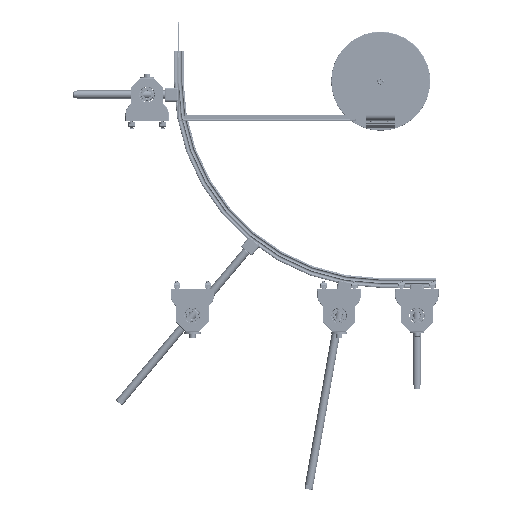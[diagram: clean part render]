
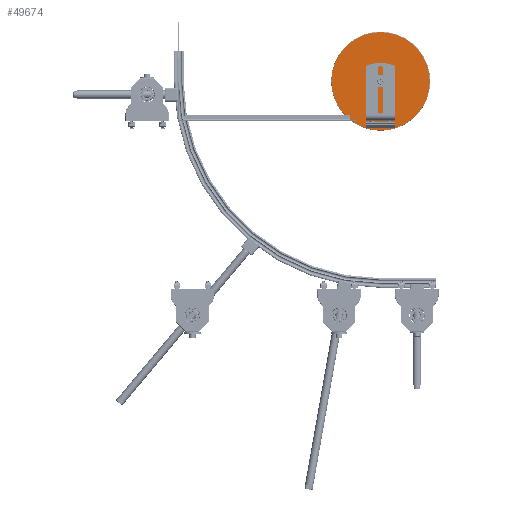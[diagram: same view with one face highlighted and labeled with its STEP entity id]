
A CAD part, front view. The second image highlights one B-rep face of the part: STEP entity #49674.
In plain terms, the highlighted planar face has unit normal (0, -1, 0) as drawn and (0, 1, 0) by its records, which use the part's own axes.
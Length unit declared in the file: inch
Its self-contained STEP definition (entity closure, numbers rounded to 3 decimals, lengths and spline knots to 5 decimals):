
#206 = CARTESIAN_POINT ( 'NONE',  ( 0., 0.405, -2.97 ) ) ;
#671 = CIRCLE ( 'NONE', #23002, 0.2525 ) ;
#678 = DIRECTION ( 'NONE',  ( 0., 0., 1. ) ) ;
#1228 = CARTESIAN_POINT ( 'NONE',  ( 0., 0.405, 0. ) ) ;
#2981 = CARTESIAN_POINT ( 'NONE',  ( 0., 0.405, -0.2525 ) ) ;
#5454 = DIRECTION ( 'NONE',  ( 0., 1., 0. ) ) ;
#6677 = EDGE_LOOP ( 'NONE', ( #39799, #21168 ) ) ;
#7563 = EDGE_CURVE ( 'NONE', #46063, #37164, #24313, .T. ) ;
#8547 = CARTESIAN_POINT ( 'NONE',  ( 0., 0.405, 0. ) ) ;
#9848 = FACE_OUTER_BOUND ( 'NONE', #29071, .T. ) ;
#10259 = DIRECTION ( 'NONE',  ( 0., 1., 0. ) ) ;
#13700 = CARTESIAN_POINT ( 'NONE',  ( 0., 0.405, 0. ) ) ;
#13982 = AXIS2_PLACEMENT_3D ( 'NONE', #1228, #18946, #44981 ) ;
#14525 = ORIENTED_EDGE ( 'NONE', *, *, #34049, .T. ) ;
#16161 = ORIENTED_EDGE ( 'NONE', *, *, #45258, .T. ) ;
#17126 = DIRECTION ( 'NONE',  ( 0., 0., 1. ) ) ;
#18946 = DIRECTION ( 'NONE',  ( 0., 1., 0. ) ) ;
#20265 = CARTESIAN_POINT ( 'NONE',  ( 0., 0.405, 2.97 ) ) ;
#20553 = CIRCLE ( 'NONE', #13982, 2.97 ) ;
#21168 = ORIENTED_EDGE ( 'NONE', *, *, #43334, .F. ) ;
#22775 = DIRECTION ( 'NONE',  ( 0., 0., 1. ) ) ;
#23002 = AXIS2_PLACEMENT_3D ( 'NONE', #32946, #23917, #50729 ) ;
#23917 = DIRECTION ( 'NONE',  ( 0., 1., 0. ) ) ;
#24313 = CIRCLE ( 'NONE', #35598, 0.2525 ) ;
#24319 = FACE_BOUND ( 'NONE', #6677, .T. ) ;
#25614 = CIRCLE ( 'NONE', #28061, 2.97 ) ;
#28061 = AXIS2_PLACEMENT_3D ( 'NONE', #43378, #39734, #17126 ) ;
#28348 = VERTEX_POINT ( 'NONE', #20265 ) ;
#29071 = EDGE_LOOP ( 'NONE', ( #14525, #16161 ) ) ;
#32946 = CARTESIAN_POINT ( 'NONE',  ( 0., 0.405, 0. ) ) ;
#34049 = EDGE_CURVE ( 'NONE', #28348, #54932, #25614, .T. ) ;
#35048 = CARTESIAN_POINT ( 'NONE',  ( 0., 0.405, 0.2525 ) ) ;
#35598 = AXIS2_PLACEMENT_3D ( 'NONE', #8547, #10259, #22775 ) ;
#37164 = VERTEX_POINT ( 'NONE', #2981 ) ;
#39734 = DIRECTION ( 'NONE',  ( 0., 1., 0. ) ) ;
#39799 = ORIENTED_EDGE ( 'NONE', *, *, #7563, .F. ) ;
#43334 = EDGE_CURVE ( 'NONE', #37164, #46063, #671, .T. ) ;
#43378 = CARTESIAN_POINT ( 'NONE',  ( 0., 0.405, 0. ) ) ;
#44981 = DIRECTION ( 'NONE',  ( 0., 0., 1. ) ) ;
#45011 = AXIS2_PLACEMENT_3D ( 'NONE', #13700, #5454, #678 ) ;
#45258 = EDGE_CURVE ( 'NONE', #54932, #28348, #20553, .T. ) ;
#46063 = VERTEX_POINT ( 'NONE', #35048 ) ;
#48069 = PLANE ( 'NONE',  #45011 ) ;
#49674 = ADVANCED_FACE ( 'NONE', ( #9848, #24319 ), #48069, .T. ) ;
#50729 = DIRECTION ( 'NONE',  ( 0., 0., 1. ) ) ;
#54932 = VERTEX_POINT ( 'NONE', #206 ) ;
